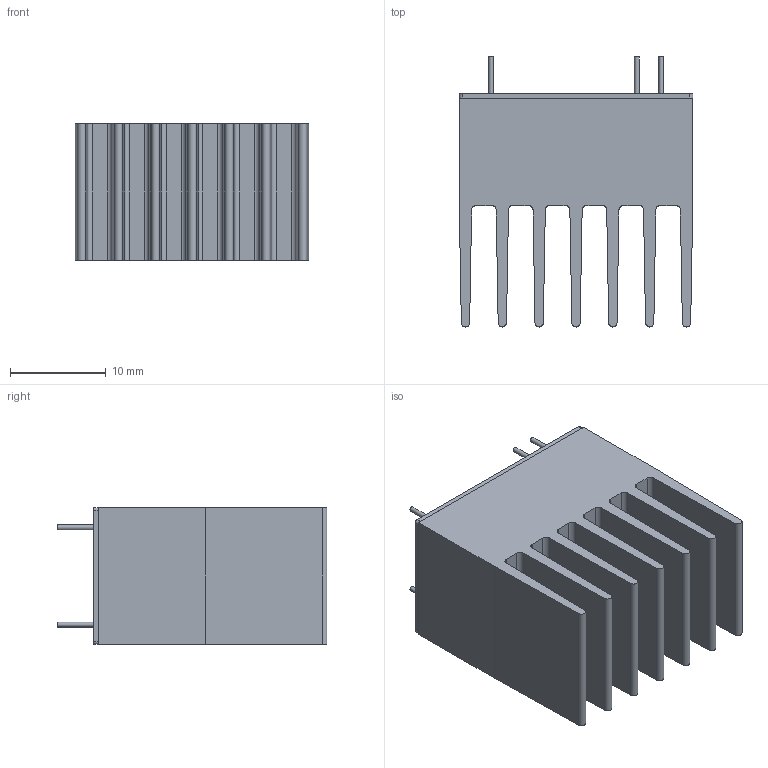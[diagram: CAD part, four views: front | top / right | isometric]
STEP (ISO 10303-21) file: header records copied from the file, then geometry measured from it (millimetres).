
FILE_DESCRIPTION(/* description */ ('STEP AP214'),/* implementation_level */ '2;1');
FILE_NAME(/* name */ 'C:\Users\Calliope\Desktop\轉檔暫存用\MDW15+MDWI15-HC7.stp',/* time_stamp */ '2024-02-23T16:06:20+08:00',/* author */ ('Calliope'),/* organization */ (''),/* preprocessor_version */ 'ST-DEVELOPER v16.1',/* originating_system */ 'Autodesk Inventor 2016',/* authorisation */ '');
FILE_SCHEMA (('AUTOMOTIVE_DESIGN { 1 0 10303 214 3 1 1 }'));
Length unit declared in the file: millimetre
Products named in the file (1): MDW15+MDWI15-HC7
Bounding box: 24.4 x 28.2 x 14.3 mm (x, y, z)
Volume: 2674.6 mm3; surface area: 5559.5 mm2
Topology: 2 solids, 2 shells, 81 faces, 205 edges, 134 vertices
Faces by surface type: plane 41, cylinder 36, bspline 4
Full cylindrical faces by diameter (mm): 0.5 x5
Entity records: 2574 total; most frequent: CARTESIAN_POINT 448, DIRECTION 432, ORIENTED_EDGE 400, EDGE_CURVE 200, AXIS2_PLACEMENT_3D 154, VERTEX_POINT 134, LINE 124, VECTOR 124
